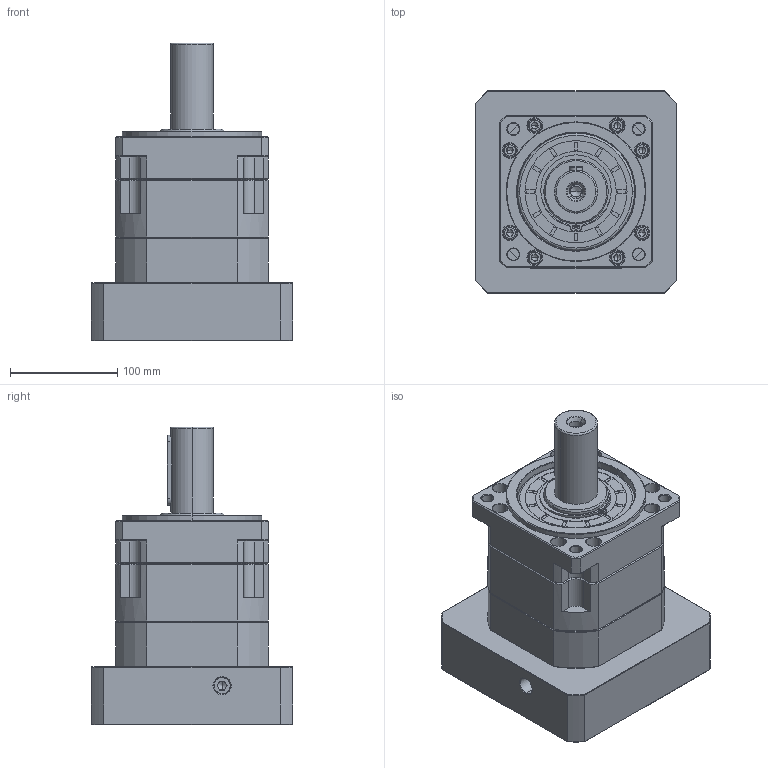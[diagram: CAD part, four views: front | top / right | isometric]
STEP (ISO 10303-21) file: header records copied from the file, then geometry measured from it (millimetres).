
FILE_DESCRIPTION (( 'STEP AP214' ), '1' );
FILE_NAME ('ZB142A-D40-L1-38-180-215-M12.step', '2023-03-17T10:46:36', ( '' ), ( '' ), 'SwSTEP 2.0', 'SolidWorks 2016', '' );
FILE_SCHEMA (( 'AUTOMOTIVE_DESIGN' ));
Length unit declared in the file: millimetre
Products named in the file (1): ZB142A-D40-L1-38-180-215-M12
Bounding box: 188 x 188 x 277.2 mm (x, y, z)
Volume: 3991156.6 mm3; surface area: 331962.4 mm2
Topology: 6 solids, 6 shells, 2024 faces, 5357 edges, 3432 vertices
Faces by surface type: plane 923, cylinder 414, cone 352, bspline 313, torus 22
Entity records: 113722 total; most frequent: CARTESIAN_POINT 43780, ORIENTED_EDGE 10654, DIRECTION 8785, EDGE_CURVE 5327, VERTEX_POINT 3432, LINE 3265, VECTOR 3265, AXIS2_PLACEMENT_3D 2760
